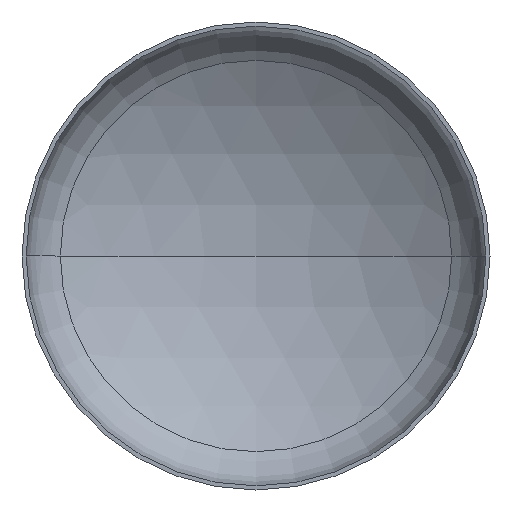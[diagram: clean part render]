
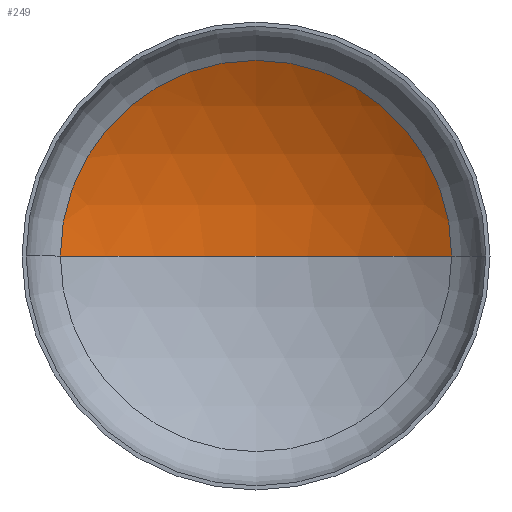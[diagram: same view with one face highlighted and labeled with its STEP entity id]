
A CAD part, front view. The second image highlights one B-rep face of the part: STEP entity #249.
In plain terms, the highlighted spherical face has radius 1360 mm.
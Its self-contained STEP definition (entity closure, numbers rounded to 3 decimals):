
#8 = AXIS2_PLACEMENT_3D ( 'NONE', #257, #158, #391 ) ;
#19 = AXIS2_PLACEMENT_3D ( 'NONE', #141, #146, #143 ) ;
#21 = AXIS2_PLACEMENT_3D ( 'NONE', #104, #107, #109 ) ;
#26 = VERTEX_POINT ( 'NONE', #244 ) ;
#45 = ORIENTED_EDGE ( 'NONE', *, *, #331, .F. ) ;
#47 = AXIS2_PLACEMENT_3D ( 'NONE', #368, #309, #127 ) ;
#55 = ORIENTED_EDGE ( 'NONE', *, *, #326, .T. ) ;
#78 = VERTEX_POINT ( 'NONE', #235 ) ;
#104 = CARTESIAN_POINT ( 'NONE',  ( 0., -892.75, 0. ) ) ;
#107 = DIRECTION ( 'NONE',  ( 0., 0., -1. ) ) ;
#108 = CIRCLE ( 'NONE', #8, 710.909 ) ;
#109 = DIRECTION ( 'NONE',  ( -1., 0., 0. ) ) ;
#127 = DIRECTION ( 'NONE',  ( -1., 0., 0. ) ) ;
#141 = CARTESIAN_POINT ( 'NONE',  ( 0., -892.75, 0. ) ) ;
#143 = DIRECTION ( 'NONE',  ( 1., 0., 0. ) ) ;
#146 = DIRECTION ( 'NONE',  ( 0., 0., 1. ) ) ;
#158 = DIRECTION ( 'NONE',  ( 0., -1., 0. ) ) ;
#224 = FACE_OUTER_BOUND ( 'NONE', #263, .T. ) ;
#235 = CARTESIAN_POINT ( 'NONE',  ( 0., 467.25, 0. ) ) ;
#244 = CARTESIAN_POINT ( 'NONE',  ( 710.909, 266.65, 0. ) ) ;
#249 = ADVANCED_FACE ( 'NONE', ( #224 ), #359, .F. ) ;
#257 = CARTESIAN_POINT ( 'NONE',  ( 0., 266.65, 0. ) ) ;
#259 = CIRCLE ( 'NONE', #19, 1360. ) ;
#263 = EDGE_LOOP ( 'NONE', ( #45, #55, #275 ) ) ;
#275 = ORIENTED_EDGE ( 'NONE', *, *, #340, .T. ) ;
#276 = CARTESIAN_POINT ( 'NONE',  ( -710.909, 266.65, 0. ) ) ;
#293 = VERTEX_POINT ( 'NONE', #276 ) ;
#309 = DIRECTION ( 'NONE',  ( 0., 0., -1. ) ) ;
#326 = EDGE_CURVE ( 'NONE', #78, #26, #406, .T. ) ;
#331 = EDGE_CURVE ( 'NONE', #78, #293, #259, .T. ) ;
#340 = EDGE_CURVE ( 'NONE', #26, #293, #108, .T. ) ;
#359 = SPHERICAL_SURFACE ( 'NONE', #47, 1360. ) ;
#368 = CARTESIAN_POINT ( 'NONE',  ( 0., -892.75, 0. ) ) ;
#391 = DIRECTION ( 'NONE',  ( 1., 0., 0. ) ) ;
#406 = CIRCLE ( 'NONE', #21, 1360. ) ;
